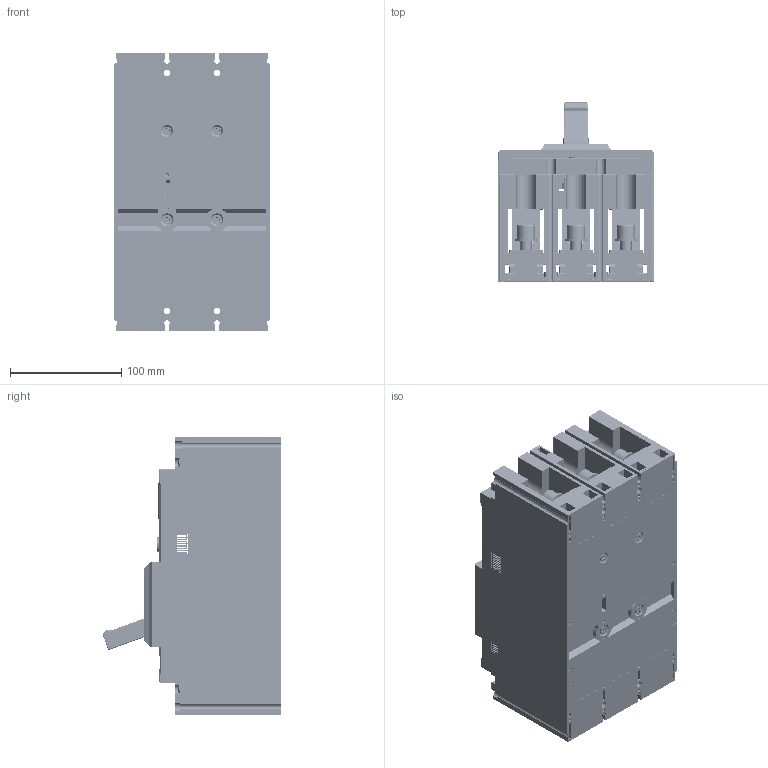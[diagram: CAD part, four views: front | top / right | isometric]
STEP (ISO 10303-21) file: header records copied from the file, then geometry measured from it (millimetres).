
FILE_DESCRIPTION (( 'STEP AP214' ), '1' );
FILE_NAME ('MNX400_630L_M_H_3P ﾈﾇﾌ.STEP', '2024-12-04T11:02:36', ( '' ), ( '' ), 'SwSTEP 2.0', 'SolidWorks 2022', '' );
FILE_SCHEMA (( 'AUTOMOTIVE_DESIGN' ));
Length unit declared in the file: millimetre
Products named in the file (1): MNX400_630L_M_H_3P ИЗМ
Bounding box: 140 x 161.13 x 250 mm (x, y, z)
Volume: 809311.5 mm3; surface area: 626735.5 mm2
Topology: 55 solids, 435 shells, 9952 faces, 25908 edges, 16910 vertices
Faces by surface type: plane 6485, cylinder 2753, cone 308, bspline 219, torus 138, sphere 49
Entity records: 444617 total; most frequent: CARTESIAN_POINT 88478, ORIENTED_EDGE 51680, DIRECTION 50438, EDGE_CURVE 25840, LINE 18898, VECTOR 18898, VERTEX_POINT 16910, AXIS2_PLACEMENT_3D 15770
